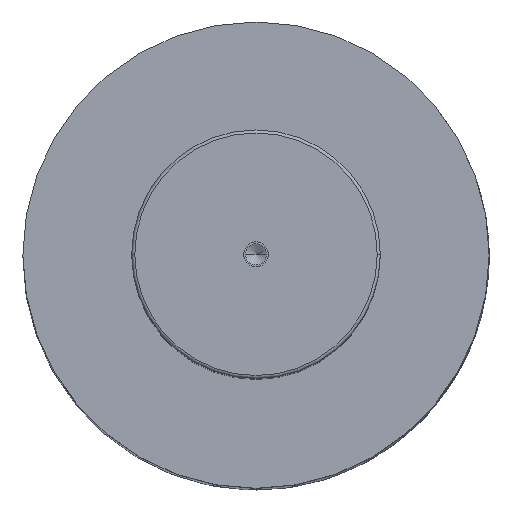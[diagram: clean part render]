
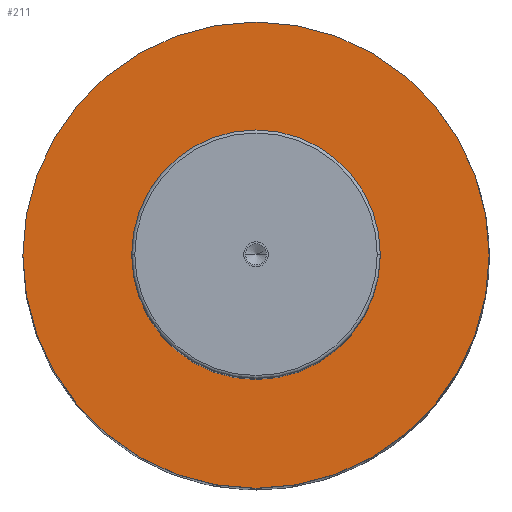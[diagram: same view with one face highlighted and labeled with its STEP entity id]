
A CAD part, top view. The second image highlights one B-rep face of the part: STEP entity #211.
In plain terms, the highlighted planar face has unit normal (0, 0, 1).
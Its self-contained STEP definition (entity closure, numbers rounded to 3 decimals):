
#109=PLANE('',#1266);
#138=FACE_BOUND('',#359,.T.);
#139=FACE_BOUND('',#360,.T.);
#211=ADVANCED_FACE('',(#138,#139),#109,.T.);
#359=EDGE_LOOP('',(#571,#572));
#360=EDGE_LOOP('',(#573,#574));
#451=CIRCLE('',#1260,40.);
#452=CIRCLE('',#1262,40.);
#453=CIRCLE('',#1264,75.);
#454=CIRCLE('',#1265,75.);
#571=ORIENTED_EDGE('',*,*,#970,.F.);
#572=ORIENTED_EDGE('',*,*,#971,.F.);
#573=ORIENTED_EDGE('',*,*,#969,.T.);
#574=ORIENTED_EDGE('',*,*,#967,.T.);
#856=VERTEX_POINT('',#1837);
#857=VERTEX_POINT('',#1839);
#858=VERTEX_POINT('',#1845);
#859=VERTEX_POINT('',#1846);
#967=EDGE_CURVE('',#857,#856,#451,.T.);
#969=EDGE_CURVE('',#856,#857,#452,.T.);
#970=EDGE_CURVE('',#858,#859,#453,.T.);
#971=EDGE_CURVE('',#859,#858,#454,.T.);
#1260=AXIS2_PLACEMENT_3D('',#1838,#1456,#1457);
#1262=AXIS2_PLACEMENT_3D('',#1842,#1461,#1462);
#1264=AXIS2_PLACEMENT_3D('',#1844,#1465,#1466);
#1265=AXIS2_PLACEMENT_3D('',#1847,#1467,#1468);
#1266=AXIS2_PLACEMENT_3D('',#1848,#1469,#1470);
#1456=DIRECTION('',(0.,0.,-1.));
#1457=DIRECTION('',(0.,1.,0.));
#1461=DIRECTION('',(0.,0.,-1.));
#1462=DIRECTION('',(0.,-1.,0.));
#1465=DIRECTION('',(0.,0.,-1.));
#1466=DIRECTION('',(0.,1.,0.));
#1467=DIRECTION('',(0.,0.,-1.));
#1468=DIRECTION('',(0.,-1.,0.));
#1469=DIRECTION('',(0.,0.,1.));
#1470=DIRECTION('',(0.,-1.,0.));
#1837=CARTESIAN_POINT('',(-40.,0.,312.));
#1838=CARTESIAN_POINT('',(0.,0.,312.));
#1839=CARTESIAN_POINT('',(40.,0.,312.));
#1842=CARTESIAN_POINT('',(0.,0.,312.));
#1844=CARTESIAN_POINT('',(0.,0.,312.));
#1845=CARTESIAN_POINT('',(75.,0.,312.));
#1846=CARTESIAN_POINT('',(-75.,0.,312.));
#1847=CARTESIAN_POINT('',(0.,0.,312.));
#1848=CARTESIAN_POINT('',(0.,0.,312.));
